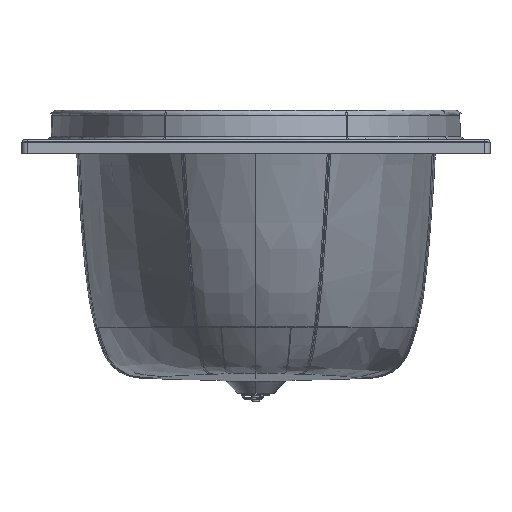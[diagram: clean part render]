
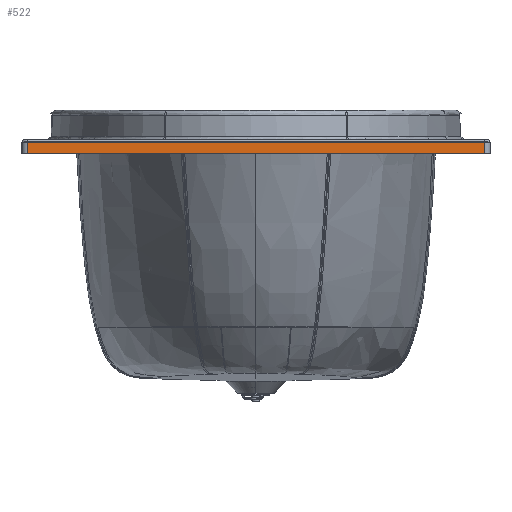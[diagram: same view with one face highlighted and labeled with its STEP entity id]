
A CAD part, left-side view. The second image highlights one B-rep face of the part: STEP entity #522.
In plain terms, the highlighted planar face has unit normal (-1, 0, 0).
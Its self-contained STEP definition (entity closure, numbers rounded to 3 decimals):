
#522=ADVANCED_FACE('',(#1058),#7957,.T.);
#1058=FACE_OUTER_BOUND('',#1604,.T.);
#1604=EDGE_LOOP('',(#3204,#3205,#3206,#3207));
#3204=ORIENTED_EDGE('',*,*,#5188,.F.);
#3205=ORIENTED_EDGE('',*,*,#5189,.F.);
#3206=ORIENTED_EDGE('',*,*,#5190,.F.);
#3207=ORIENTED_EDGE('',*,*,#5154,.F.);
#5154=EDGE_CURVE('',#7542,#7543,#6330,.T.);
#5188=EDGE_CURVE('',#7558,#7542,#6348,.T.);
#5189=EDGE_CURVE('',#7559,#7558,#6349,.T.);
#5190=EDGE_CURVE('',#7543,#7559,#6350,.T.);
#6330=B_SPLINE_CURVE_WITH_KNOTS('',1,(#36327,#36328),.UNSPECIFIED.,.F.,
 .F.,(2,2),(-782.,0.),.UNSPECIFIED.);
#6348=B_SPLINE_CURVE_WITH_KNOTS('',1,(#36411,#36412),.UNSPECIFIED.,.F.,
 .F.,(2,2),(-20.,0.),.UNSPECIFIED.);
#6349=B_SPLINE_CURVE_WITH_KNOTS('',1,(#36413,#36414),.UNSPECIFIED.,.F.,
 .F.,(2,2),(0.,782.),.UNSPECIFIED.);
#6350=B_SPLINE_CURVE_WITH_KNOTS('',1,(#36415,#36416),.UNSPECIFIED.,.F.,
 .F.,(2,2),(0.,20.),.UNSPECIFIED.);
#7542=VERTEX_POINT('',#30960);
#7543=VERTEX_POINT('',#30961);
#7558=VERTEX_POINT('',#30976);
#7559=VERTEX_POINT('',#30977);
#7957=PLANE('',#8420);
#8420=AXIS2_PLACEMENT_3D('',#30650,#8648,$);
#8648=DIRECTION('',(-1.,0.,0.));
#30650=CARTESIAN_POINT('',(-899.965,-468.905,164.943));
#30960=CARTESIAN_POINT('',(-899.965,391.355,187.003));
#30961=CARTESIAN_POINT('',(-899.965,-390.645,187.003));
#30976=CARTESIAN_POINT('',(-899.965,391.355,167.003));
#30977=CARTESIAN_POINT('',(-899.965,-390.645,167.003));
#36327=CARTESIAN_POINT('',(-899.965,391.355,187.003));
#36328=CARTESIAN_POINT('',(-899.965,-390.645,187.003));
#36411=CARTESIAN_POINT('',(-899.965,391.355,167.003));
#36412=CARTESIAN_POINT('',(-899.965,391.355,187.003));
#36413=CARTESIAN_POINT('',(-899.965,-390.645,167.003));
#36414=CARTESIAN_POINT('',(-899.965,391.355,167.003));
#36415=CARTESIAN_POINT('',(-899.965,-390.645,187.003));
#36416=CARTESIAN_POINT('',(-899.965,-390.645,167.003));
